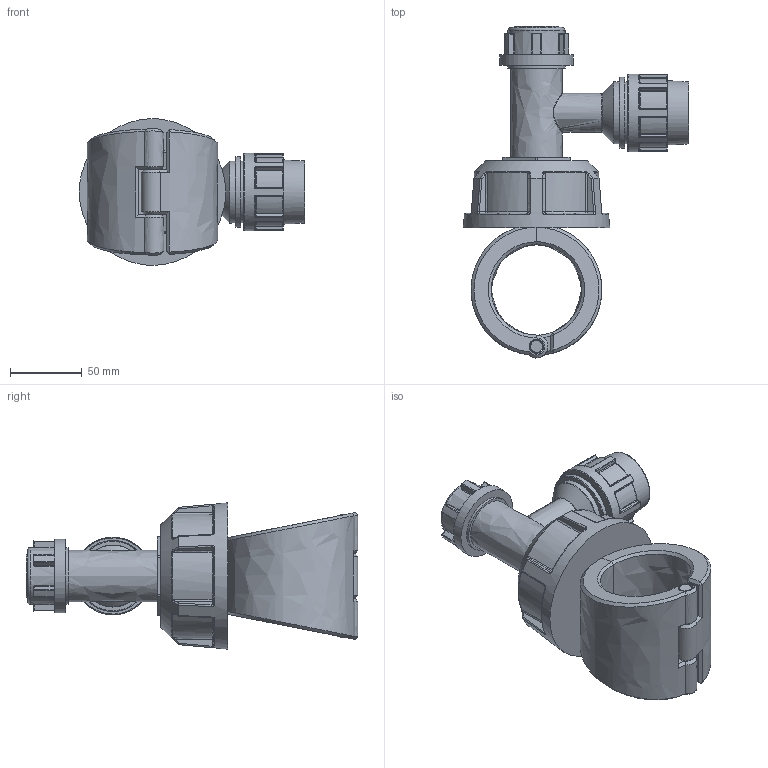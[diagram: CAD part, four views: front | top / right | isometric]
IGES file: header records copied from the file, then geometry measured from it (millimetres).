
Global section: file name: 163100063025_1631060630250A; native system: Autodesk Inventor 2019; preprocessor: unknown; author: comp2; date: 20220203.115653; units: millimetre
Bounding box: 157 x 231 x 101.88 mm (x, y, z)
Volume: 749912.6 mm3; surface area: 107453.2 mm2
Topology: 4 solids, 4 shells, 519 faces, 1253 edges, 754 vertices
Faces by surface type: bspline 519
